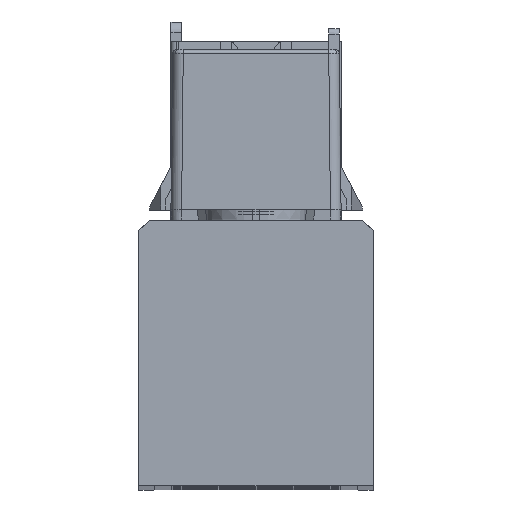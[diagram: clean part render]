
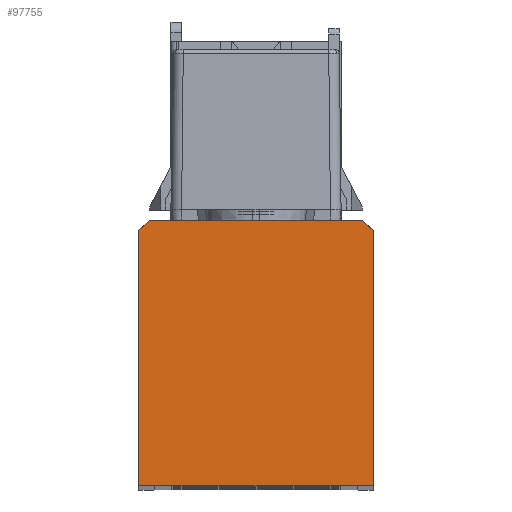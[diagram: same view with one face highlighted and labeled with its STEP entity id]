
A CAD part, top view. The second image highlights one B-rep face of the part: STEP entity #97755.
In plain terms, the highlighted planar face has unit normal (0, 0, 1).
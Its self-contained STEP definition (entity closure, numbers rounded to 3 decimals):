
#4296 = CARTESIAN_POINT ( 'NONE',  ( 12.291, 12.291, 1.5 ) ) ;
#4750 = CARTESIAN_POINT ( 'NONE',  ( 0., 14.588, 1.5 ) ) ;
#5258 = DIRECTION ( 'NONE',  ( -0.707, -0.707, 0. ) ) ;
#6224 = LINE ( 'NONE', #12989, #57964 ) ;
#6430 = EDGE_CURVE ( 'NONE', #95510, #90273, #48550, .T. ) ;
#10286 = ORIENTED_EDGE ( 'NONE', *, *, #98163, .T. ) ;
#10877 = ORIENTED_EDGE ( 'NONE', *, *, #16019, .T. ) ;
#11643 = CARTESIAN_POINT ( 'NONE',  ( 9.995, 14.588, 1.5 ) ) ;
#12989 = CARTESIAN_POINT ( 'NONE',  ( -10.988, 11., 1.5 ) ) ;
#13111 = DIRECTION ( 'NONE',  ( -0.707, 0.707, 0. ) ) ;
#15927 = ORIENTED_EDGE ( 'NONE', *, *, #6430, .T. ) ;
#16019 = EDGE_CURVE ( 'NONE', #90273, #51475, #71907, .T. ) ;
#27228 = CARTESIAN_POINT ( 'NONE',  ( -9.995, 14.588, 1.5 ) ) ;
#27859 = ORIENTED_EDGE ( 'NONE', *, *, #79509, .T. ) ;
#32242 = CARTESIAN_POINT ( 'NONE',  ( -10.988, 13.595, 1.5 ) ) ;
#32946 = CARTESIAN_POINT ( 'NONE',  ( -10.988, -10.288, 1.5 ) ) ;
#32991 = DIRECTION ( 'NONE',  ( 0., 1., 0. ) ) ;
#33436 = EDGE_LOOP ( 'NONE', ( #61878, #10286, #47946, #15927, #10877, #27859 ) ) ;
#33611 = EDGE_CURVE ( 'NONE', #97848, #95510, #6224, .T. ) ;
#36022 = VECTOR ( 'NONE', #5258, 1000. ) ;
#38655 = VERTEX_POINT ( 'NONE', #11643 ) ;
#46097 = CARTESIAN_POINT ( 'NONE',  ( 10.988, -10.288, 1.5 ) ) ;
#47946 = ORIENTED_EDGE ( 'NONE', *, *, #33611, .T. ) ;
#48550 = LINE ( 'NONE', #70354, #69847 ) ;
#48955 = VERTEX_POINT ( 'NONE', #27228 ) ;
#51475 = VERTEX_POINT ( 'NONE', #71446 ) ;
#52354 = DIRECTION ( 'NONE',  ( 0., -1., 0. ) ) ;
#55342 = VECTOR ( 'NONE', #13111, 1000. ) ;
#57835 = CARTESIAN_POINT ( 'NONE',  ( 10.988, 11., 1.5 ) ) ;
#57964 = VECTOR ( 'NONE', #52354, 1000. ) ;
#58140 = DIRECTION ( 'NONE',  ( -1., 0., 0. ) ) ;
#61815 = CARTESIAN_POINT ( 'NONE',  ( 0., 0., 1.5 ) ) ;
#61878 = ORIENTED_EDGE ( 'NONE', *, *, #70818, .T. ) ;
#64467 = VECTOR ( 'NONE', #32991, 1000. ) ;
#68611 = PLANE ( 'NONE',  #77366 ) ;
#69847 = VECTOR ( 'NONE', #101986, 1000. ) ;
#70354 = CARTESIAN_POINT ( 'NONE',  ( -11., -10.288, 1.5 ) ) ;
#70818 = EDGE_CURVE ( 'NONE', #38655, #48955, #97576, .T. ) ;
#71446 = CARTESIAN_POINT ( 'NONE',  ( 10.988, 13.595, 1.5 ) ) ;
#71907 = LINE ( 'NONE', #57835, #64467 ) ;
#75329 = LINE ( 'NONE', #4296, #55342 ) ;
#76281 = LINE ( 'NONE', #91835, #36022 ) ;
#77366 = AXIS2_PLACEMENT_3D ( 'NONE', #61815, #99744, #93477 ) ;
#79509 = EDGE_CURVE ( 'NONE', #51475, #38655, #75329, .T. ) ;
#83913 = VECTOR ( 'NONE', #58140, 1000. ) ;
#90273 = VERTEX_POINT ( 'NONE', #46097 ) ;
#91835 = CARTESIAN_POINT ( 'NONE',  ( -12.291, 12.291, 1.5 ) ) ;
#93477 = DIRECTION ( 'NONE',  ( 1., 0., 0. ) ) ;
#95510 = VERTEX_POINT ( 'NONE', #32946 ) ;
#97576 = LINE ( 'NONE', #4750, #83913 ) ;
#97755 = ADVANCED_FACE ( 'NONE', ( #101269 ), #68611, .T. ) ;
#97848 = VERTEX_POINT ( 'NONE', #32242 ) ;
#98163 = EDGE_CURVE ( 'NONE', #48955, #97848, #76281, .T. ) ;
#99744 = DIRECTION ( 'NONE',  ( 0., 0., 1. ) ) ;
#101269 = FACE_OUTER_BOUND ( 'NONE', #33436, .T. ) ;
#101986 = DIRECTION ( 'NONE',  ( 1., 0., 0. ) ) ;
